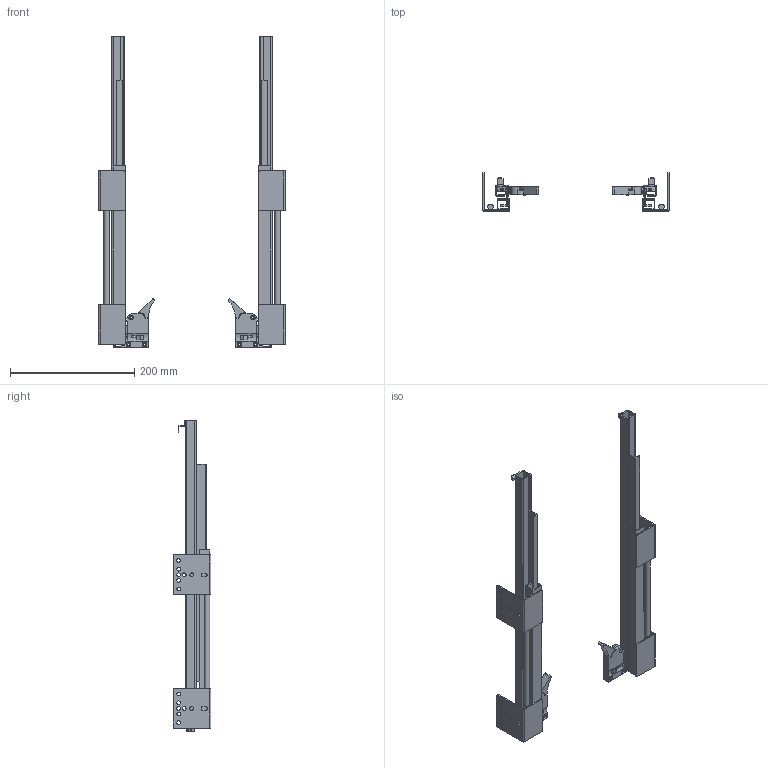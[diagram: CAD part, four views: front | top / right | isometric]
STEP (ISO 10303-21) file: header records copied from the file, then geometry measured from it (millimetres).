
FILE_DESCRIPTION(/* description */ (''),/* implementation_level */ '2;1');
FILE_NAME(/* name */ 'C:\Users\dmitruk\Documents\WORK\НАПРАВЛЯЮЩИЕ\Скрытого монтажа\SLIM SLIDE Направляющие скрытого монтажа полного выдвижения (16 мм)\SLIM SLIDE Направляющие скрытого монтажа полного выдвижения (16 мм)-500.stp',/* time_stamp */ '2022-04-22T11:22:05+03:00',/* author */ ('dmitruk'),/* organization */ (''),/* preprocessor_version */ 'ST-DEVELOPER v16.5',/* originating_system */ 'Autodesk Inventor 2017',/* authorisation */ '');
FILE_SCHEMA (('AUTOMOTIVE_DESIGN { 1 0 10303 214 3 1 1 }'));
Length unit declared in the file: millimetre
Products named in the file (9): SLIM SLIDE Направляющие \X2\0441
043A0440044B0442043E0433043E\X0\ монтажа 
полного \X2\0432044B04340432043804360435043D
0438044F\X0\ (16 мм); Направляющие \X2\0441043A
0440044B0442043E0433043E\X0\ монтажа \X2\043F
043E043B043D043E0433043E\X0\ \X2\0432044B04340432043804360435043D0438044F
\X0\ slim CR slim(18 mm); Направляющие \X2\0441043A
0440044B0442043E0433043E\X0\ монтажа \X2\043F
043E043B043D043E0433043E\X0\ \X2\0432044B04340432043804360435043D0438044F
\X0\ slim DR slim; Направляющие \X2\0441043A
0440044B0442043E0433043E\X0\ монтажа \X2\043F
043E043B043D043E0433043E\X0\ \X2\0432044B04340432043804360435043D0438044F
\X0\ slim DW slim slide; Крепление \X2\0434043B
044F\X0\ полного SLIM R; Направляющие \X2\0441043A
0440044B0442043E0433043E\X0\ монтажа \X2\043F
043E043B043D043E0433043E\X0\ \X2\0432044B04340432043804360435043D0438044F
\X0\ slim CL slim(18 mm); Крепление \X2\0434043B
044F\X0\ полного SLIM L; Направляющие \X2\0441043A
0440044B0442043E0433043E\X0\ монтажа \X2\043F
043E043B043D043E0433043E\X0\ \X2\0432044B04340432043804360435043D0438044F
\X0\ slim DW slim slide_1; Направляющие \X2\0441043A
0440044B0442043E0433043E\X0\ монтажа \X2\043F
043E043B043D043E0433043E\X0\ \X2\0432044B04340432043804360435043D0438044F
\X0\ slim DL slim
Assembly tree (8 placements, depth 2):
  SLIM SLIDE Направляющие \X2\0441
043A0440044B0442043E0433043E\X0\ монтажа 
полного \X2\0432044B04340432043804360435043D
0438044F\X0\ (16 мм)
    Направляющие \X2\0441043A
0440044B0442043E0433043E\X0\ монтажа \X2\043F
043E043B043D043E0433043E\X0\ \X2\0432044B04340432043804360435043D0438044F
\X0\ slim CR slim(18 mm)
    Направляющие \X2\0441043A
0440044B0442043E0433043E\X0\ монтажа \X2\043F
043E043B043D043E0433043E\X0\ \X2\0432044B04340432043804360435043D0438044F
\X0\ slim DR slim
    Направляющие \X2\0441043A
0440044B0442043E0433043E\X0\ монтажа \X2\043F
043E043B043D043E0433043E\X0\ \X2\0432044B04340432043804360435043D0438044F
\X0\ slim DW slim slide
    Крепление \X2\0434043B
044F\X0\ полного SLIM R
    Направляющие \X2\0441043A
0440044B0442043E0433043E\X0\ монтажа \X2\043F
043E043B043D043E0433043E\X0\ \X2\0432044B04340432043804360435043D0438044F
\X0\ slim CL slim(18 mm)
    Крепление \X2\0434043B
044F\X0\ полного SLIM L
    Направляющие \X2\0441043A
0440044B0442043E0433043E\X0\ монтажа \X2\043F
043E043B043D043E0433043E\X0\ \X2\0432044B04340432043804360435043D0438044F
\X0\ slim DW slim slide_1
    Направляющие \X2\0441043A
0440044B0442043E0433043E\X0\ монтажа \X2\043F
043E043B043D043E0433043E\X0\ \X2\0432044B04340432043804360435043D0438044F
\X0\ slim DL slim
Bounding box: 300 x 61 x 500 mm (x, y, z)
Volume: 320628.4 mm3; surface area: 331104.7 mm2
Topology: 16 solids, 16 shells, 520 faces, 1468 edges, 972 vertices
Faces by surface type: plane 368, cylinder 148, cone 4
Full cylindrical faces by diameter (mm): 4 x10, 6 x28, 7 x2, 9.002 x2
Entity records: 16757 total; most frequent: CARTESIAN_POINT 2895, DIRECTION 2766, ORIENTED_EDGE 2764, EDGE_CURVE 1382, LINE 1056, VECTOR 1056, VERTEX_POINT 932, AXIS2_PLACEMENT_3D 855
